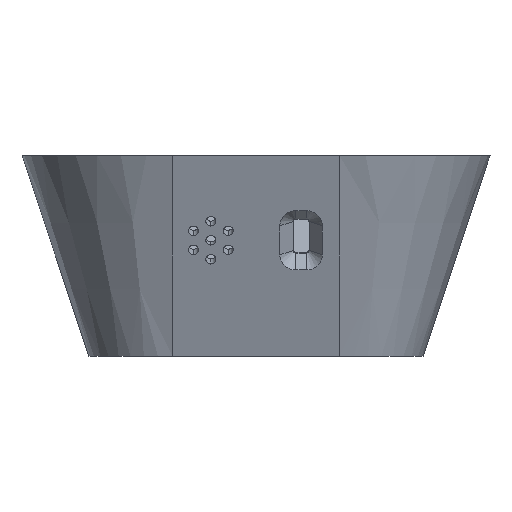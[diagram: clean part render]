
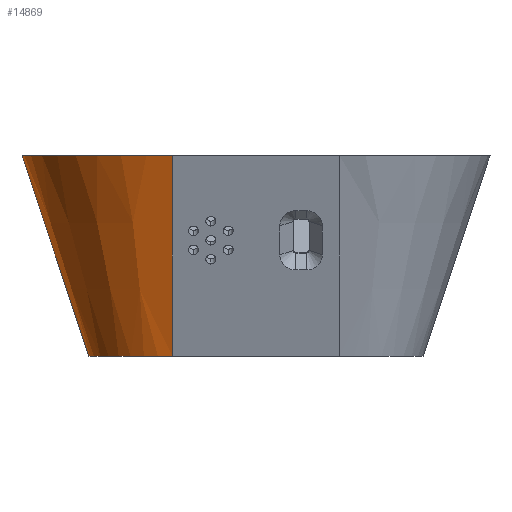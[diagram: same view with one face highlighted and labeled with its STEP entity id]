
A CAD part, left-side view. The second image highlights one B-rep face of the part: STEP entity #14869.
In plain terms, the highlighted conical face has half-angle 18.435 degrees and reference radius 15.875 mm.
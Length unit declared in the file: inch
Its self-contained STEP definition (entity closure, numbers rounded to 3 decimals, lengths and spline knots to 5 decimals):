
#49 = CIRCLE ( 'NONE', #1519, 0.625 ) ;
#144 = CONICAL_SURFACE ( 'NONE', #4835, 0.625, 0.322 ) ;
#739 = ORIENTED_EDGE ( 'NONE', *, *, #2155, .T. ) ;
#1519 = AXIS2_PLACEMENT_3D ( 'NONE', #11691, #16292, #3523 ) ;
#2046 = DIRECTION ( 'NONE',  ( 0.316, -0.949, 0. ) ) ;
#2155 = EDGE_CURVE ( 'NONE', #3492, #11617, #9023, .T. ) ;
#2233 = CARTESIAN_POINT ( 'NONE',  ( 2., 0.125, -0.625 ) ) ;
#3492 = VERTEX_POINT ( 'NONE', #17285 ) ;
#3523 = DIRECTION ( 'NONE',  ( 0., 0., -1. ) ) ;
#4570 = CARTESIAN_POINT ( 'NONE',  ( 3.125, -1.375, -0.625 ) ) ;
#4835 = AXIS2_PLACEMENT_3D ( 'NONE', #2233, #13259, #13627 ) ;
#5143 = VECTOR ( 'NONE', #2046, 39.37008 ) ;
#5153 = VERTEX_POINT ( 'NONE', #17064 ) ;
#5610 = CARTESIAN_POINT ( 'NONE',  ( 2., -1.375, -0.625 ) ) ;
#6961 = VERTEX_POINT ( 'NONE', #15122 ) ;
#8009 = FACE_OUTER_BOUND ( 'NONE', #14118, .T. ) ;
#8269 = CIRCLE ( 'NONE', #17383, 1.125 ) ;
#9023 = LINE ( 'NONE', #18016, #5143 ) ;
#9446 = LINE ( 'NONE', #13699, #13803 ) ;
#9550 = DIRECTION ( 'NONE',  ( 0., -1., 0. ) ) ;
#9602 = EDGE_CURVE ( 'NONE', #5153, #11617, #8269, .T. ) ;
#9741 = ORIENTED_EDGE ( 'NONE', *, *, #9602, .F. ) ;
#9778 = ORIENTED_EDGE ( 'NONE', *, *, #17530, .F. ) ;
#11617 = VERTEX_POINT ( 'NONE', #4570 ) ;
#11691 = CARTESIAN_POINT ( 'NONE',  ( 2., 0.125, -0.625 ) ) ;
#13259 = DIRECTION ( 'NONE',  ( 0., -1., 0. ) ) ;
#13627 = DIRECTION ( 'NONE',  ( 0., 0., -1. ) ) ;
#13699 = CARTESIAN_POINT ( 'NONE',  ( 2., 0.125, -1.25 ) ) ;
#13803 = VECTOR ( 'NONE', #16641, 39.37008 ) ;
#13804 = ORIENTED_EDGE ( 'NONE', *, *, #17218, .F. ) ;
#14118 = EDGE_LOOP ( 'NONE', ( #9741, #9778, #13804, #739 ) ) ;
#14869 = ADVANCED_FACE ( 'NONE', ( #8009 ), #144, .T. ) ;
#15122 = CARTESIAN_POINT ( 'NONE',  ( 2., 0.125, -1.25 ) ) ;
#16292 = DIRECTION ( 'NONE',  ( 0., 1., 0. ) ) ;
#16641 = DIRECTION ( 'NONE',  ( 0., -0.949, -0.316 ) ) ;
#17064 = CARTESIAN_POINT ( 'NONE',  ( 2., -1.375, -1.75 ) ) ;
#17218 = EDGE_CURVE ( 'NONE', #3492, #6961, #49, .T. ) ;
#17285 = CARTESIAN_POINT ( 'NONE',  ( 2.625, 0.125, -0.625 ) ) ;
#17383 = AXIS2_PLACEMENT_3D ( 'NONE', #5610, #9550, #18031 ) ;
#17530 = EDGE_CURVE ( 'NONE', #6961, #5153, #9446, .T. ) ;
#18016 = CARTESIAN_POINT ( 'NONE',  ( 2.625, 0.125, -0.625 ) ) ;
#18031 = DIRECTION ( 'NONE',  ( 0., 0., -1. ) ) ;
